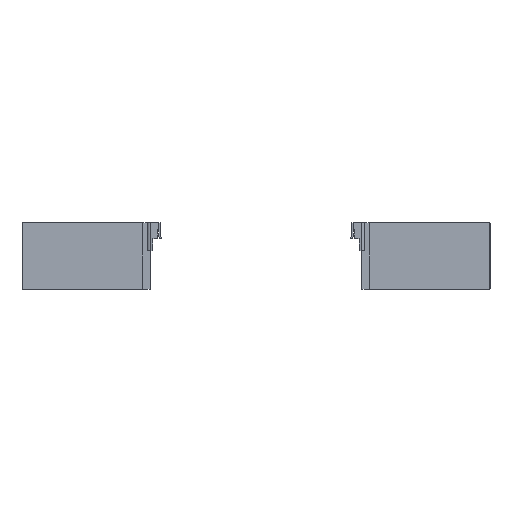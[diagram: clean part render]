
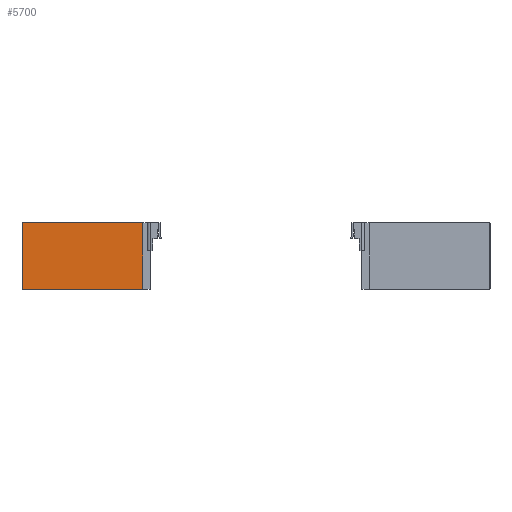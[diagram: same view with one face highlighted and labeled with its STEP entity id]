
A CAD part, left-side view. The second image highlights one B-rep face of the part: STEP entity #5700.
In plain terms, the highlighted planar face has unit normal (-1, 0, 0).
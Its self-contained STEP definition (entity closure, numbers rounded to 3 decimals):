
#575 = CARTESIAN_POINT ( 'NONE',  ( -36.75, 386.4, 109.6 ) ) ;
#578 = ORIENTED_EDGE ( 'NONE', *, *, #4030, .F. ) ;
#910 = FACE_OUTER_BOUND ( 'NONE', #5586, .T. ) ;
#916 = AXIS2_PLACEMENT_3D ( 'NONE', #575, #7913, #3872 ) ;
#1154 = LINE ( 'NONE', #2221, #3049 ) ;
#1241 = ORIENTED_EDGE ( 'NONE', *, *, #7266, .F. ) ;
#1412 = DIRECTION ( 'NONE',  ( 0., 1., 0. ) ) ;
#1810 = DIRECTION ( 'NONE',  ( -1., 0., 0. ) ) ;
#1905 = DIRECTION ( 'NONE',  ( 0., 1., 0. ) ) ;
#1934 = ORIENTED_EDGE ( 'NONE', *, *, #4855, .F. ) ;
#2000 = CARTESIAN_POINT ( 'NONE',  ( -36.75, 387.4, 110.6 ) ) ;
#2132 = VERTEX_POINT ( 'NONE', #8520 ) ;
#2221 = CARTESIAN_POINT ( 'NONE',  ( -36.75, 387.4, 0.6 ) ) ;
#2270 = DIRECTION ( 'NONE',  ( 0., 0., -1. ) ) ;
#2446 = VERTEX_POINT ( 'NONE', #2586 ) ;
#2549 = DIRECTION ( 'NONE',  ( 0., -1., 0. ) ) ;
#2573 = CARTESIAN_POINT ( 'NONE',  ( -36.75, 187.4, 0.6 ) ) ;
#2586 = CARTESIAN_POINT ( 'NONE',  ( -36.75, 386.4, 110.6 ) ) ;
#2739 = CARTESIAN_POINT ( 'NONE',  ( -36.75, 386.4, 1.6 ) ) ;
#3043 = EDGE_CURVE ( 'NONE', #3317, #3979, #7738, .T. ) ;
#3049 = VECTOR ( 'NONE', #6956, 1000. ) ;
#3238 = PLANE ( 'NONE',  #8475 ) ;
#3278 = LINE ( 'NONE', #4003, #5040 ) ;
#3317 = VERTEX_POINT ( 'NONE', #7853 ) ;
#3590 = LINE ( 'NONE', #2000, #4721 ) ;
#3872 = DIRECTION ( 'NONE',  ( 0., 1., 0. ) ) ;
#3936 = ORIENTED_EDGE ( 'NONE', *, *, #5998, .F. ) ;
#3979 = VERTEX_POINT ( 'NONE', #5380 ) ;
#4003 = CARTESIAN_POINT ( 'NONE',  ( -36.75, 387.4, 110.6 ) ) ;
#4030 = EDGE_CURVE ( 'NONE', #2446, #2132, #3590, .T. ) ;
#4170 = ORIENTED_EDGE ( 'NONE', *, *, #3043, .T. ) ;
#4173 = CARTESIAN_POINT ( 'NONE',  ( -36.75, 387.4, 109.6 ) ) ;
#4215 = VERTEX_POINT ( 'NONE', #4173 ) ;
#4410 = EDGE_CURVE ( 'NONE', #2446, #4215, #6950, .T. ) ;
#4620 = ORIENTED_EDGE ( 'NONE', *, *, #4410, .T. ) ;
#4721 = VECTOR ( 'NONE', #2549, 1000. ) ;
#4855 = EDGE_CURVE ( 'NONE', #8136, #3979, #1154, .T. ) ;
#5040 = VECTOR ( 'NONE', #6000, 1000. ) ;
#5352 = DIRECTION ( 'NONE',  ( -1., 0., 0. ) ) ;
#5380 = CARTESIAN_POINT ( 'NONE',  ( -36.75, 386.4, 0.6 ) ) ;
#5586 = EDGE_LOOP ( 'NONE', ( #578, #4620, #1241, #4170, #1934, #3936 ) ) ;
#5700 = ADVANCED_FACE ( 'NONE', ( #910 ), #3238, .T. ) ;
#5998 = EDGE_CURVE ( 'NONE', #2132, #8136, #7440, .T. ) ;
#6000 = DIRECTION ( 'NONE',  ( 0., 0., 1. ) ) ;
#6265 = CARTESIAN_POINT ( 'NONE',  ( -36.75, 187.4, 110.6 ) ) ;
#6950 = CIRCLE ( 'NONE', #916, 1. ) ;
#6956 = DIRECTION ( 'NONE',  ( 0., 1., 0. ) ) ;
#7264 = CARTESIAN_POINT ( 'NONE',  ( -36.75, 387.4, 0.6 ) ) ;
#7266 = EDGE_CURVE ( 'NONE', #3317, #4215, #3278, .T. ) ;
#7440 = LINE ( 'NONE', #6265, #8167 ) ;
#7552 = AXIS2_PLACEMENT_3D ( 'NONE', #2739, #5352, #1412 ) ;
#7738 = CIRCLE ( 'NONE', #7552, 1. ) ;
#7853 = CARTESIAN_POINT ( 'NONE',  ( -36.75, 387.4, 1.6 ) ) ;
#7913 = DIRECTION ( 'NONE',  ( -1., 0., 0. ) ) ;
#8136 = VERTEX_POINT ( 'NONE', #2573 ) ;
#8167 = VECTOR ( 'NONE', #2270, 1000. ) ;
#8475 = AXIS2_PLACEMENT_3D ( 'NONE', #7264, #1810, #1905 ) ;
#8520 = CARTESIAN_POINT ( 'NONE',  ( -36.75, 187.4, 110.6 ) ) ;
